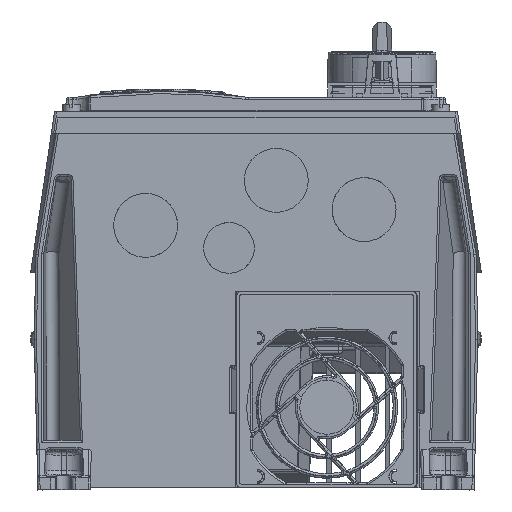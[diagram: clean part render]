
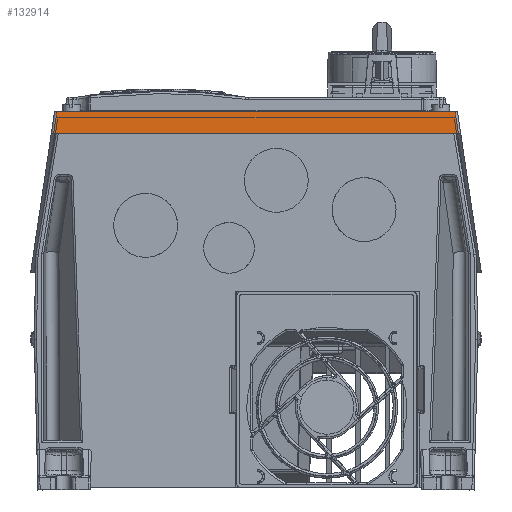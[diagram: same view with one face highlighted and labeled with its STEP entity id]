
A CAD part, front view. The second image highlights one B-rep face of the part: STEP entity #132914.
In plain terms, the highlighted planar face has unit normal (0, -1, 0.018).
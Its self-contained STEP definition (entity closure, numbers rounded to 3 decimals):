
#12552=CARTESIAN_POINT('',(88.458,-195.731,
71.605));
#12562=CARTESIAN_POINT('',(-89.895,-195.9,61.9));
#12568=DIRECTION('',(1.,0.,0.));
#12569=VECTOR('',#12568,179.791);
#12570=CARTESIAN_POINT('',(-89.895,-195.9,61.9));
#12571=LINE('',#12570,#12569);
#12576=CARTESIAN_POINT('',(89.895,-195.9,61.9));
#39910=DIRECTION('',(-1.,0.,0.));
#39911=VECTOR('',#39910,176.915);
#39912=CARTESIAN_POINT('',(88.458,-195.731,
71.605));
#39913=LINE('',#39912,#39911);
#39914=DIRECTION('',(0.147,-0.017,-0.989));
#39915=VECTOR('',#39914,9.813);
#39916=CARTESIAN_POINT('',(88.458,-195.731,
71.605));
#39917=LINE('',#39916,#39915);
#39918=DIRECTION('',(0.147,0.017,0.989));
#39919=VECTOR('',#39918,9.813);
#39920=CARTESIAN_POINT('',(-89.895,-195.9,61.9));
#39921=LINE('',#39920,#39919);
#52848=VERTEX_POINT('',#12576);
#52849=VERTEX_POINT('',#12562);
#52925=VERTEX_POINT('',#12552);
#52928=CARTESIAN_POINT('',(-88.458,-195.731,
71.605));
#52929=VERTEX_POINT('',#52928);
#132903=CARTESIAN_POINT('',(-93.442,-195.726,71.9));
#132904=DIRECTION('',(0.,-1.,0.017));
#132905=DIRECTION('',(0.,-0.017,-1.));
#132906=AXIS2_PLACEMENT_3D('',#132903,#132904,#132905);
#132907=PLANE('',#132906);
#132908=ORIENTED_EDGE('',*,*,#132895,.F.);
#132909=ORIENTED_EDGE('',*,*,#83819,.T.);
#132910=ORIENTED_EDGE('',*,*,#83840,.F.);
#132911=ORIENTED_EDGE('',*,*,#132810,.T.);
#132912=EDGE_LOOP('',(#132908,#132909,#132910,#132911));
#132913=FACE_OUTER_BOUND('',#132912,.F.);
#83819=EDGE_CURVE('',#52925,#52848,#39917,.T.);
#83840=EDGE_CURVE('',#52849,#52848,#12571,.T.);
#132810=EDGE_CURVE('',#52849,#52929,#39921,.T.);
#132895=EDGE_CURVE('',#52925,#52929,#39913,.T.);
#132914=ADVANCED_FACE('',(#132913),#132907,.T.);
